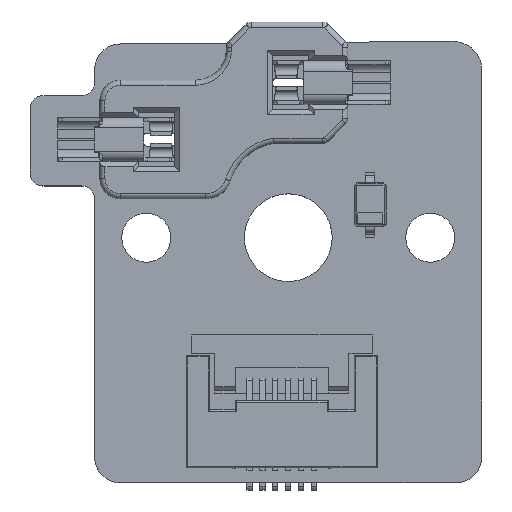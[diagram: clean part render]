
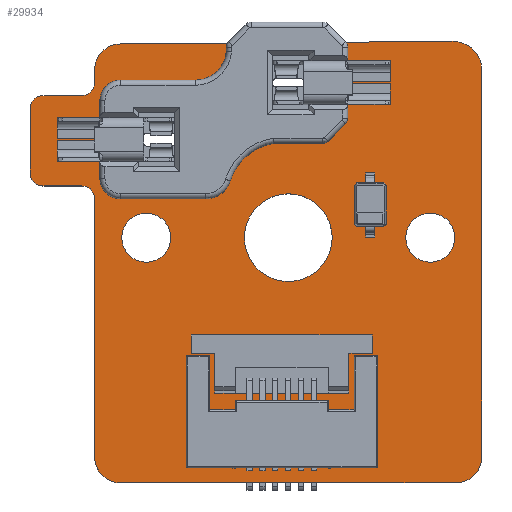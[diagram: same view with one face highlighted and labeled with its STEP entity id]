
A CAD part, top view. The second image highlights one B-rep face of the part: STEP entity #29934.
In plain terms, the highlighted planar face has unit normal (0, 0, 1).
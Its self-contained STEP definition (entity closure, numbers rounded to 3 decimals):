
#29662 = VERTEX_POINT('',#29663);
#29663 = CARTESIAN_POINT('',(154.88,-97.4,1.51));
#29669 = EDGE_CURVE('',#29662,#29670,#29672,.T.);
#29670 = VERTEX_POINT('',#29671);
#29671 = CARTESIAN_POINT('',(156.,-98.5,1.51));
#29672 = CIRCLE('',#29673,1.12);
#29673 = AXIS2_PLACEMENT_3D('',#29674,#29675,#29676);
#29674 = CARTESIAN_POINT('',(154.88,-98.52,1.51));
#29675 = DIRECTION('',(0.,0.,-1.));
#29676 = DIRECTION('',(0.,1.,0.));
#29704 = VERTEX_POINT('',#29705);
#29705 = CARTESIAN_POINT('',(142.,-97.5,1.51));
#29711 = EDGE_CURVE('',#29704,#29662,#29712,.T.);
#29712 = LINE('',#29713,#29714);
#29713 = CARTESIAN_POINT('',(142.,-97.5,1.51));
#29714 = VECTOR('',#29715,1.);
#29715 = DIRECTION('',(1.,0.008,0.));
#29733 = EDGE_CURVE('',#29670,#29734,#29736,.T.);
#29734 = VERTEX_POINT('',#29735);
#29735 = CARTESIAN_POINT('',(156.,-113.5,1.51));
#29736 = LINE('',#29737,#29738);
#29737 = CARTESIAN_POINT('',(156.,-98.5,1.51));
#29738 = VECTOR('',#29739,1.);
#29739 = DIRECTION('',(0.,-1.,0.));
#29934 = ADVANCED_FACE('',(#29935,#30049,#30060,#30071,#30082,#30093),
  #30104,.T.);
#29935 = FACE_BOUND('',#29936,.T.);
#29936 = EDGE_LOOP('',(#29937,#29938,#29939,#29948,#29956,#29965,#29973,
    #29982,#29990,#29999,#30007,#30016,#30024,#30033,#30041,#30048));
#29937 = ORIENTED_EDGE('',*,*,#29669,.F.);
#29938 = ORIENTED_EDGE('',*,*,#29711,.F.);
#29939 = ORIENTED_EDGE('',*,*,#29940,.F.);
#29940 = EDGE_CURVE('',#29941,#29704,#29943,.T.);
#29941 = VERTEX_POINT('',#29942);
#29942 = CARTESIAN_POINT('',(141.,-98.5,1.51));
#29943 = CIRCLE('',#29944,1.);
#29944 = AXIS2_PLACEMENT_3D('',#29945,#29946,#29947);
#29945 = CARTESIAN_POINT('',(142.,-98.5,1.51));
#29946 = DIRECTION('',(0.,0.,-1.));
#29947 = DIRECTION('',(-1.,0.,-0.));
#29948 = ORIENTED_EDGE('',*,*,#29949,.F.);
#29949 = EDGE_CURVE('',#29950,#29941,#29952,.T.);
#29950 = VERTEX_POINT('',#29951);
#29951 = CARTESIAN_POINT('',(141.,-99.,1.51));
#29952 = LINE('',#29953,#29954);
#29953 = CARTESIAN_POINT('',(141.,-99.,1.51));
#29954 = VECTOR('',#29955,1.);
#29955 = DIRECTION('',(0.,1.,0.));
#29956 = ORIENTED_EDGE('',*,*,#29957,.F.);
#29957 = EDGE_CURVE('',#29958,#29950,#29960,.T.);
#29958 = VERTEX_POINT('',#29959);
#29959 = CARTESIAN_POINT('',(140.5,-99.5,1.51));
#29960 = CIRCLE('',#29961,0.5);
#29961 = AXIS2_PLACEMENT_3D('',#29962,#29963,#29964);
#29962 = CARTESIAN_POINT('',(140.5,-99.,1.51));
#29963 = DIRECTION('',(0.,0.,1.));
#29964 = DIRECTION('',(0.,-1.,0.));
#29965 = ORIENTED_EDGE('',*,*,#29966,.F.);
#29966 = EDGE_CURVE('',#29967,#29958,#29969,.T.);
#29967 = VERTEX_POINT('',#29968);
#29968 = CARTESIAN_POINT('',(139.,-99.5,1.51));
#29969 = LINE('',#29970,#29971);
#29970 = CARTESIAN_POINT('',(139.,-99.5,1.51));
#29971 = VECTOR('',#29972,1.);
#29972 = DIRECTION('',(1.,0.,0.));
#29973 = ORIENTED_EDGE('',*,*,#29974,.F.);
#29974 = EDGE_CURVE('',#29975,#29967,#29977,.T.);
#29975 = VERTEX_POINT('',#29976);
#29976 = CARTESIAN_POINT('',(138.5,-100.,1.51));
#29977 = CIRCLE('',#29978,0.5);
#29978 = AXIS2_PLACEMENT_3D('',#29979,#29980,#29981);
#29979 = CARTESIAN_POINT('',(139.,-100.,1.51));
#29980 = DIRECTION('',(0.,0.,-1.));
#29981 = DIRECTION('',(-1.,0.,0.));
#29982 = ORIENTED_EDGE('',*,*,#29983,.F.);
#29983 = EDGE_CURVE('',#29984,#29975,#29986,.T.);
#29984 = VERTEX_POINT('',#29985);
#29985 = CARTESIAN_POINT('',(138.5,-102.5,1.51));
#29986 = LINE('',#29987,#29988);
#29987 = CARTESIAN_POINT('',(138.5,-102.5,1.51));
#29988 = VECTOR('',#29989,1.);
#29989 = DIRECTION('',(0.,1.,0.));
#29990 = ORIENTED_EDGE('',*,*,#29991,.F.);
#29991 = EDGE_CURVE('',#29992,#29984,#29994,.T.);
#29992 = VERTEX_POINT('',#29993);
#29993 = CARTESIAN_POINT('',(139.,-103.,1.51));
#29994 = CIRCLE('',#29995,0.5);
#29995 = AXIS2_PLACEMENT_3D('',#29996,#29997,#29998);
#29996 = CARTESIAN_POINT('',(139.,-102.5,1.51));
#29997 = DIRECTION('',(0.,0.,-1.));
#29998 = DIRECTION('',(0.,-1.,-0.));
#29999 = ORIENTED_EDGE('',*,*,#30000,.F.);
#30000 = EDGE_CURVE('',#30001,#29992,#30003,.T.);
#30001 = VERTEX_POINT('',#30002);
#30002 = CARTESIAN_POINT('',(140.5,-103.,1.51));
#30003 = LINE('',#30004,#30005);
#30004 = CARTESIAN_POINT('',(140.5,-103.,1.51));
#30005 = VECTOR('',#30006,1.);
#30006 = DIRECTION('',(-1.,0.,0.));
#30007 = ORIENTED_EDGE('',*,*,#30008,.F.);
#30008 = EDGE_CURVE('',#30009,#30001,#30011,.T.);
#30009 = VERTEX_POINT('',#30010);
#30010 = CARTESIAN_POINT('',(141.,-103.5,1.51));
#30011 = CIRCLE('',#30012,0.5);
#30012 = AXIS2_PLACEMENT_3D('',#30013,#30014,#30015);
#30013 = CARTESIAN_POINT('',(140.5,-103.5,1.51));
#30014 = DIRECTION('',(0.,0.,1.));
#30015 = DIRECTION('',(1.,0.,-0.));
#30016 = ORIENTED_EDGE('',*,*,#30017,.F.);
#30017 = EDGE_CURVE('',#30018,#30009,#30020,.T.);
#30018 = VERTEX_POINT('',#30019);
#30019 = CARTESIAN_POINT('',(141.,-113.5,1.51));
#30020 = LINE('',#30021,#30022);
#30021 = CARTESIAN_POINT('',(141.,-113.5,1.51));
#30022 = VECTOR('',#30023,1.);
#30023 = DIRECTION('',(0.,1.,0.));
#30024 = ORIENTED_EDGE('',*,*,#30025,.F.);
#30025 = EDGE_CURVE('',#30026,#30018,#30028,.T.);
#30026 = VERTEX_POINT('',#30027);
#30027 = CARTESIAN_POINT('',(142.,-114.5,1.51));
#30028 = CIRCLE('',#30029,1.);
#30029 = AXIS2_PLACEMENT_3D('',#30030,#30031,#30032);
#30030 = CARTESIAN_POINT('',(142.,-113.5,1.51));
#30031 = DIRECTION('',(0.,0.,-1.));
#30032 = DIRECTION('',(0.,-1.,0.));
#30033 = ORIENTED_EDGE('',*,*,#30034,.F.);
#30034 = EDGE_CURVE('',#30035,#30026,#30037,.T.);
#30035 = VERTEX_POINT('',#30036);
#30036 = CARTESIAN_POINT('',(155.,-114.5,1.51));
#30037 = LINE('',#30038,#30039);
#30038 = CARTESIAN_POINT('',(155.,-114.5,1.51));
#30039 = VECTOR('',#30040,1.);
#30040 = DIRECTION('',(-1.,0.,0.));
#30041 = ORIENTED_EDGE('',*,*,#30042,.F.);
#30042 = EDGE_CURVE('',#29734,#30035,#30043,.T.);
#30043 = CIRCLE('',#30044,1.);
#30044 = AXIS2_PLACEMENT_3D('',#30045,#30046,#30047);
#30045 = CARTESIAN_POINT('',(155.,-113.5,1.51));
#30046 = DIRECTION('',(0.,0.,-1.));
#30047 = DIRECTION('',(1.,0.,0.));
#30048 = ORIENTED_EDGE('',*,*,#29733,.F.);
#30049 = FACE_BOUND('',#30050,.T.);
#30050 = EDGE_LOOP('',(#30051));
#30051 = ORIENTED_EDGE('',*,*,#30052,.T.);
#30052 = EDGE_CURVE('',#30053,#30053,#30055,.T.);
#30053 = VERTEX_POINT('',#30054);
#30054 = CARTESIAN_POINT('',(143.001,-105.954,1.51));
#30055 = CIRCLE('',#30056,0.95);
#30056 = AXIS2_PLACEMENT_3D('',#30057,#30058,#30059);
#30057 = CARTESIAN_POINT('',(143.001,-105.004,1.51));
#30058 = DIRECTION('',(-0.,0.,-1.));
#30059 = DIRECTION('',(-0.,-1.,0.));
#30060 = FACE_BOUND('',#30061,.T.);
#30061 = EDGE_LOOP('',(#30062));
#30062 = ORIENTED_EDGE('',*,*,#30063,.T.);
#30063 = EDGE_CURVE('',#30064,#30064,#30066,.T.);
#30064 = VERTEX_POINT('',#30065);
#30065 = CARTESIAN_POINT('',(148.501,-106.704,1.51));
#30066 = CIRCLE('',#30067,1.7);
#30067 = AXIS2_PLACEMENT_3D('',#30068,#30069,#30070);
#30068 = CARTESIAN_POINT('',(148.501,-105.004,1.51));
#30069 = DIRECTION('',(-0.,0.,-1.));
#30070 = DIRECTION('',(-0.,-1.,0.));
#30071 = FACE_BOUND('',#30072,.T.);
#30072 = EDGE_LOOP('',(#30073));
#30073 = ORIENTED_EDGE('',*,*,#30074,.T.);
#30074 = EDGE_CURVE('',#30075,#30075,#30077,.T.);
#30075 = VERTEX_POINT('',#30076);
#30076 = CARTESIAN_POINT('',(154.001,-105.954,1.51));
#30077 = CIRCLE('',#30078,0.95);
#30078 = AXIS2_PLACEMENT_3D('',#30079,#30080,#30081);
#30079 = CARTESIAN_POINT('',(154.001,-105.004,1.51));
#30080 = DIRECTION('',(-0.,0.,-1.));
#30081 = DIRECTION('',(-0.,-1.,0.));
#30082 = FACE_BOUND('',#30083,.T.);
#30083 = EDGE_LOOP('',(#30084));
#30084 = ORIENTED_EDGE('',*,*,#30085,.T.);
#30085 = EDGE_CURVE('',#30086,#30086,#30088,.T.);
#30086 = VERTEX_POINT('',#30087);
#30087 = CARTESIAN_POINT('',(143.501,-102.704,1.51));
#30088 = CIRCLE('',#30089,1.5);
#30089 = AXIS2_PLACEMENT_3D('',#30090,#30091,#30092);
#30090 = CARTESIAN_POINT('',(143.501,-101.204,1.51));
#30091 = DIRECTION('',(-0.,0.,-1.));
#30092 = DIRECTION('',(-0.,-1.,0.));
#30093 = FACE_BOUND('',#30094,.T.);
#30094 = EDGE_LOOP('',(#30095));
#30095 = ORIENTED_EDGE('',*,*,#30096,.T.);
#30096 = EDGE_CURVE('',#30097,#30097,#30099,.T.);
#30097 = VERTEX_POINT('',#30098);
#30098 = CARTESIAN_POINT('',(148.501,-100.604,1.51));
#30099 = CIRCLE('',#30100,1.5);
#30100 = AXIS2_PLACEMENT_3D('',#30101,#30102,#30103);
#30101 = CARTESIAN_POINT('',(148.501,-99.104,1.51));
#30102 = DIRECTION('',(-0.,0.,-1.));
#30103 = DIRECTION('',(-0.,-1.,0.));
#30104 = PLANE('',#30105);
#30105 = AXIS2_PLACEMENT_3D('',#30106,#30107,#30108);
#30106 = CARTESIAN_POINT('',(0.,0.,1.51));
#30107 = DIRECTION('',(0.,0.,1.));
#30108 = DIRECTION('',(1.,0.,-0.));
